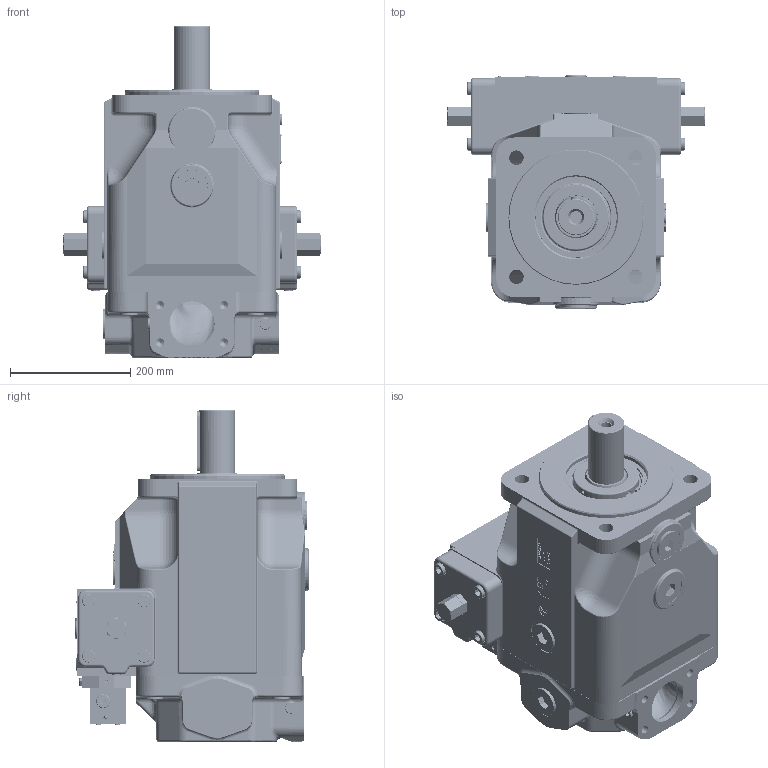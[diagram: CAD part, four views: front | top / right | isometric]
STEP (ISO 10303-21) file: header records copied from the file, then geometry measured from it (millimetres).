
FILE_DESCRIPTION (( 'STEP AP214' ), '1' );
FILE_NAME ('KD-A4VSO250.STEP', '2022-11-15T09:33:53', ( '' ), ( '' ), 'SwSTEP 2.0', 'SolidWorks 2015', '' );
FILE_SCHEMA (( 'AUTOMOTIVE_DESIGN' ));
Length unit declared in the file: millimetre
Products named in the file (40): 掙梓齪ㄗ250); 覦僅攫ㄗ355ㄘ; NeiLuoSai M18X1.5; 耜醱梓齪ㄗ355ㄘ; 80000701002B.01 传动轴密封盖组件; A4VSO250DR湮耜裔郪-S; NeiLuoSai M27X2; Nld-M14X45; A4VSO250DR小侧盖毛坯-DR成品(陆）; T8000-01V11内六角平端紧定螺钉M20X1.5X80; 8A0002500100-M27A0唅蛌硌渀攫_傖こ; T8000-01V10内六角平端紧定螺钉M20X1.5X55; A4VSO250DR苤耜裔郪-S; Nld-M5X30; 轴用弹性挡圈 DIN 471 - 65x 2.5 (X); T8000-07V04侧盖螺母（250）; LR2概 (250); 穩隊 2X5-X; K11VSO250_唅蛌硌渀郪璃; NeiLuoSai M42X2; T8000-06V04侧盖螺帽（250）; 粟俶埴翐种_GB T879.1_2.5X10; 80000701002B-07摇摆固定无孔塞头; A4VSO250上壳体毛坯+加工(恒立)-S; 禳剿黑芛-M10; A4VSO250DR大侧盖毛坯-DR成品(陆）; す瑩 18X100; NeiLuoSai M14X1.5-X; Nld-M20X45; 8A0002500100-M25A0固定有孔塞头_成品; 孔用弹性挡圈 DIN 472 - 135X4（G); NeiLuoSai M10X1-X; A4VSO250传动轴（平键）; A4VSO250換雄粣郪璃; A4VSO250綴裔+樓馱(箝蕾0817)-S; A4VSO250传动轴密封盖毛坯+成品(王)-S; A4VSO250綴裔郪璃-S; KD-A4VSO250; A4VSO250奻褲极郪璃-S; 8A0002500100-M026A0曹講硌渀裝
Assembly tree (67 placements, depth 4):
  KD-A4VSO250
    A4VSO250奻褲极郪璃-S
      A4VSO250上壳体毛坯+加工(恒立)-S
      80000701002B.01 传动轴密封盖组件
        A4VSO250传动轴密封盖毛坯+成品(王)-S
      孔用弹性挡圈 DIN 472 - 135X4（G)
      NeiLuoSai M14X1.5-X
      NeiLuoSai M42X2  x3
      NeiLuoSai M27X2
      NeiLuoSai M18X1.5  x2
      耜醱梓齪ㄗ355ㄘ
      覦僅攫ㄗ355ㄘ
      掙梓齪ㄗ250)
      穩隊 2X5-X  x10
      8A0002500100-M25A0固定有孔塞头_成品
      80000701002B-07摇摆固定无孔塞头
      A4VSO250換雄粣郪璃
        A4VSO250传动轴（平键）
        す瑩 18X100
        轴用弹性挡圈 DIN 471 - 65x 2.5 (X)
    A4VSO250綴裔郪璃-S
      A4VSO250綴裔+樓馱(箝蕾0817)-S
      NeiLuoSai M42X2
      禳剿黑芛-M10
      NeiLuoSai M14X1.5-X  x2
      Nld-M20X45  x4
    K11VSO250_唅蛌硌渀郪璃
      8A0002500100-M026A0曹講硌渀裝
      8A0002500100-M27A0唅蛌硌渀攫_傖こ
      粟俶埴翐种_GB T879.1_2.5X10
      Nld-M5X30
    A4VSO250DR湮耜裔郪-S
      A4VSO250DR大侧盖毛坯-DR成品(陆）
      T8000-01V10内六角平端紧定螺钉M20X1.5X55
      T8000-07V04侧盖螺母（250）
      T8000-06V04侧盖螺帽（250）
      Nld-M14X45  x4
      NeiLuoSai M10X1-X
    A4VSO250DR苤耜裔郪-S
      A4VSO250DR小侧盖毛坯-DR成品(陆）
      T8000-01V11内六角平端紧定螺钉M20X1.5X80
      Nld-M14X45  x4
      T8000-07V04侧盖螺母（250）
      T8000-06V04侧盖螺帽（250）
      NeiLuoSai M10X1-X
    LR2概 (250)
Bounding box: 427.2 x 387.5 x 551.63 mm (x, y, z)
Volume: 19863220.5 mm3; surface area: 2053596.3 mm2
Topology: 57 solids, 102 shells, 10081 faces, 26474 edges, 17148 vertices
Faces by surface type: plane 4504, bspline 3213, cylinder 1518, cone 485, torus 284, sphere 77
Entity records: 552543 total; most frequent: CARTESIAN_POINT 330948, ORIENTED_EDGE 50206, DIRECTION 33515, EDGE_CURVE 25230, VERTEX_POINT 16471, LINE 13983, VECTOR 13983, EDGE_LOOP 10500
